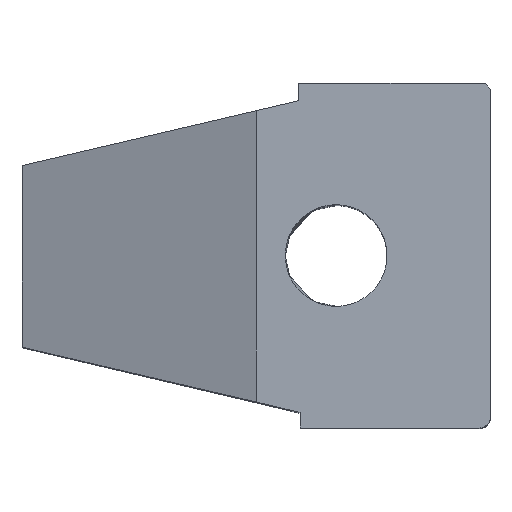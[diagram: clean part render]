
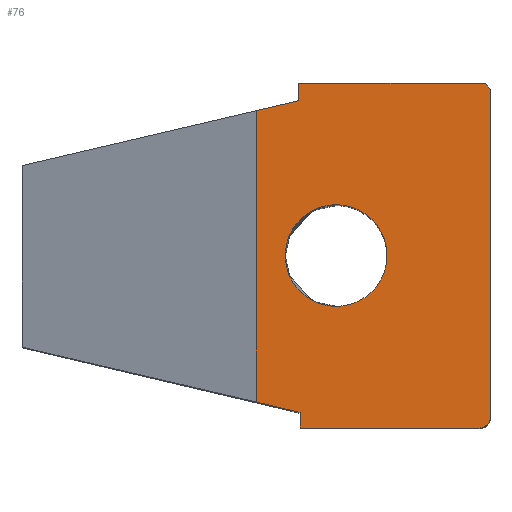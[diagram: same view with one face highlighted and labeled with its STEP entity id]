
A CAD part, top view. The second image highlights one B-rep face of the part: STEP entity #76.
In plain terms, the highlighted planar face has unit normal (0, 0, 1).
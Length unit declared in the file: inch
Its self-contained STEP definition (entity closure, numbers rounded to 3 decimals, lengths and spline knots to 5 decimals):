
#76=ADVANCED_FACE('',(#161,#162),#163,.T.);
#161=FACE_BOUND('',#287,.T.);
#162=FACE_OUTER_BOUND('',#288,.T.);
#163=PLANE('',#289);
#287=EDGE_LOOP('',(#464,#465,#466,#467));
#288=EDGE_LOOP('',(#468,#469,#470,#471,#472,#473,#474,#475,#476,#477));
#289=AXIS2_PLACEMENT_3D('',#478,#479,#480);
#464=ORIENTED_EDGE('',*,*,#607,.T.);
#465=ORIENTED_EDGE('',*,*,#651,.T.);
#466=ORIENTED_EDGE('',*,*,#622,.T.);
#467=ORIENTED_EDGE('',*,*,#611,.T.);
#468=ORIENTED_EDGE('',*,*,#671,.T.);
#469=ORIENTED_EDGE('',*,*,#672,.F.);
#470=ORIENTED_EDGE('',*,*,#665,.T.);
#471=ORIENTED_EDGE('',*,*,#673,.T.);
#472=ORIENTED_EDGE('',*,*,#674,.T.);
#473=ORIENTED_EDGE('',*,*,#675,.T.);
#474=ORIENTED_EDGE('',*,*,#676,.T.);
#475=ORIENTED_EDGE('',*,*,#677,.T.);
#476=ORIENTED_EDGE('',*,*,#678,.T.);
#477=ORIENTED_EDGE('',*,*,#654,.F.);
#478=CARTESIAN_POINT('',(0.49416,2.33428,3.4375));
#479=DIRECTION('',(0.0,0.0,1.0));
#480=DIRECTION('',(-1.0,0.0,-0.0));
#607=EDGE_CURVE('',#719,#717,#720,.T.);
#611=EDGE_CURVE('',#725,#719,#726,.T.);
#622=EDGE_CURVE('',#744,#725,#745,.T.);
#651=EDGE_CURVE('',#717,#744,#793,.T.);
#654=EDGE_CURVE('',#796,#798,#799,.T.);
#665=EDGE_CURVE('',#816,#814,#817,.T.);
#671=EDGE_CURVE('',#796,#824,#825,.T.);
#672=EDGE_CURVE('',#816,#824,#826,.T.);
#673=EDGE_CURVE('',#814,#827,#828,.T.);
#674=EDGE_CURVE('',#827,#829,#830,.T.);
#675=EDGE_CURVE('',#829,#831,#832,.T.);
#676=EDGE_CURVE('',#831,#833,#834,.T.);
#677=EDGE_CURVE('',#833,#835,#836,.T.);
#678=EDGE_CURVE('',#835,#798,#837,.T.);
#717=VERTEX_POINT('',#883);
#719=VERTEX_POINT('',#886);
#720=B_SPLINE_CURVE_WITH_KNOTS('',3,(#887,#888,#889,#890),.UNSPECIFIED.,.F.,.F.,(4,4),(-1.0,-0.0),.UNSPECIFIED.);
#725=VERTEX_POINT('',#899);
#726=B_SPLINE_CURVE_WITH_KNOTS('',3,(#900,#901,#902,#903),.UNSPECIFIED.,.F.,.F.,(4,4),(-1.0,-0.0),.UNSPECIFIED.);
#744=VERTEX_POINT('',#952);
#745=B_SPLINE_CURVE_WITH_KNOTS('',3,(#953,#954,#955,#956),.UNSPECIFIED.,.F.,.F.,(4,4),(-1.0,-0.0),.UNSPECIFIED.);
#793=B_SPLINE_CURVE_WITH_KNOTS('',3,(#1046,#1047,#1048,#1049),.UNSPECIFIED.,.F.,.F.,(4,4),(-1.0,-0.0),.UNSPECIFIED.);
#796=VERTEX_POINT('',#1052);
#798=VERTEX_POINT('',#1057);
#799=LINE('',#1058,#1059);
#814=VERTEX_POINT('',#1089);
#816=VERTEX_POINT('',#1092);
#817=LINE('',#1093,#1094);
#824=VERTEX_POINT('',#1104);
#825=B_SPLINE_CURVE_WITH_KNOTS('',3,(#1105,#1106,#1107,#1108),.UNSPECIFIED.,.F.,.F.,(4,4),(-1.0,-0.0),.UNSPECIFIED.);
#826=LINE('',#1109,#1110);
#827=VERTEX_POINT('',#1111);
#828=LINE('',#1112,#1113);
#829=VERTEX_POINT('',#1114);
#830=LINE('',#1115,#1116);
#831=VERTEX_POINT('',#1117);
#832=LINE('',#1118,#1119);
#833=VERTEX_POINT('',#1120);
#834=LINE('',#1121,#1122);
#835=VERTEX_POINT('',#1123);
#836=B_SPLINE_CURVE_WITH_KNOTS('',2,(#1124,#1125,#1126),.UNSPECIFIED.,.F.,.F.,(3,3),(-1.0,-0.0),.UNSPECIFIED.);
#837=B_SPLINE_CURVE_WITH_KNOTS('',3,(#1127,#1128,#1129,#1130),.UNSPECIFIED.,.F.,.F.,(4,4),(-1.0,-0.0),.UNSPECIFIED.);
#883=CARTESIAN_POINT('',(0.58813,1.16728,3.4375));
#886=CARTESIAN_POINT('',(0.24438,1.51103,3.4375));
#887=CARTESIAN_POINT('',(0.24438,1.51103,3.4375));
#888=CARTESIAN_POINT('',(0.43423,1.51103,3.4375));
#889=CARTESIAN_POINT('',(0.58813,1.35713,3.4375));
#890=CARTESIAN_POINT('',(0.58813,1.16728,3.4375));
#899=CARTESIAN_POINT('',(-0.09937,1.16728,3.4375));
#900=CARTESIAN_POINT('',(-0.09937,1.16728,3.4375));
#901=CARTESIAN_POINT('',(-0.09937,1.35713,3.4375));
#902=CARTESIAN_POINT('',(0.05454,1.51103,3.4375));
#903=CARTESIAN_POINT('',(0.24438,1.51103,3.4375));
#952=CARTESIAN_POINT('',(0.24438,0.82353,3.4375));
#953=CARTESIAN_POINT('',(0.24438,0.82353,3.4375));
#954=CARTESIAN_POINT('',(0.05454,0.82353,3.4375));
#955=CARTESIAN_POINT('',(-0.09937,0.97743,3.4375));
#956=CARTESIAN_POINT('',(-0.09937,1.16728,3.4375));
#1046=CARTESIAN_POINT('',(0.58813,1.16728,3.4375));
#1047=CARTESIAN_POINT('',(0.58813,0.97743,3.4375));
#1048=CARTESIAN_POINT('',(0.43423,0.82353,3.4375));
#1049=CARTESIAN_POINT('',(0.24438,0.82353,3.4375));
#1052=CARTESIAN_POINT('',(1.28543,2.28741,3.4375));
#1057=CARTESIAN_POINT('',(1.28543,0.05652,3.4375));
#1058=CARTESIAN_POINT('',(1.28543,2.33428,3.4375));
#1059=VECTOR('',#1236,1.0);
#1089=CARTESIAN_POINT('',(-0.01012,2.21459,3.4375));
#1092=CARTESIAN_POINT('',(-0.01012,2.33428,3.4375));
#1093=CARTESIAN_POINT('',(-0.01012,2.30677,3.4375));
#1094=VECTOR('',#1241,1.0);
#1104=CARTESIAN_POINT('',(1.24823,2.33428,3.4375));
#1105=CARTESIAN_POINT('',(1.28813,2.26708,3.4375));
#1106=CARTESIAN_POINT('',(1.28813,2.31019,3.4375));
#1107=CARTESIAN_POINT('',(1.2532,2.34393,3.4375));
#1108=CARTESIAN_POINT('',(1.21008,2.34393,3.4375));
#1109=CARTESIAN_POINT('',(0.78543,2.33428,3.4375));
#1110=VECTOR('',#1245,1.0);
#1111=CARTESIAN_POINT('',(-0.2971,2.1475,3.4375));
#1112=CARTESIAN_POINT('',(-0.22545,2.16425,3.4375));
#1113=VECTOR('',#1246,1.0);
#1114=CARTESIAN_POINT('',(-0.2971,0.17586,3.4375));
#1115=CARTESIAN_POINT('',(-0.2971,2.33428,3.4375));
#1116=VECTOR('',#1247,1.0);
#1117=CARTESIAN_POINT('',(0.0,0.10615,3.4375));
#1118=CARTESIAN_POINT('',(-0.48381,0.21968,3.4375));
#1119=VECTOR('',#1248,1.0);
#1120=CARTESIAN_POINT('',(0.0,0.0,3.4375));
#1121=CARTESIAN_POINT('',(0.,1.19368,3.4375));
#1122=VECTOR('',#1249,1.0);
#1123=CARTESIAN_POINT('',(1.21008,0.0,3.4375));
#1124=CARTESIAN_POINT('',(0.0,0.0,3.4375));
#1125=CARTESIAN_POINT('',(1.16132,0.00039,3.4375));
#1126=CARTESIAN_POINT('',(1.21008,0.0,3.4375));
#1127=CARTESIAN_POINT('',(1.21008,0.0,3.4375));
#1128=CARTESIAN_POINT('',(1.2532,0.0,3.4375));
#1129=CARTESIAN_POINT('',(1.28813,0.03374,3.4375));
#1130=CARTESIAN_POINT('',(1.28813,0.07686,3.4375));
#1236=DIRECTION('',(0.0,-1.0,0.0));
#1241=DIRECTION('',(0.0,-1.0,0.0));
#1245=DIRECTION('',(1.0,0.0,0.0));
#1246=DIRECTION('',(-0.974,-0.228,0.0));
#1247=DIRECTION('',(0.0,-1.0,0.0));
#1248=DIRECTION('',(0.974,-0.228,0.0));
#1249=DIRECTION('',(0.0,-1.0,0.0));
